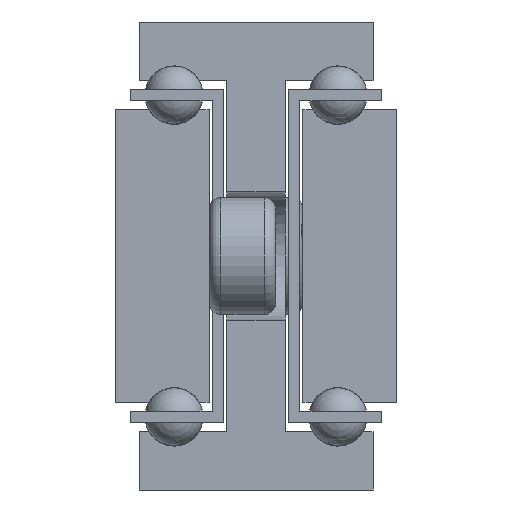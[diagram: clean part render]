
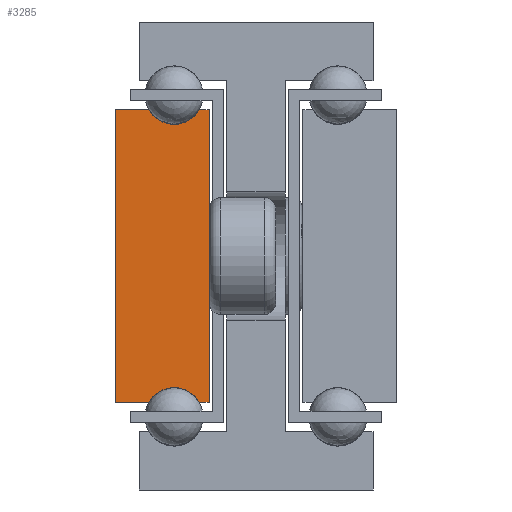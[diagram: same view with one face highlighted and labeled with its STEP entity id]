
A CAD part, front view. The second image highlights one B-rep face of the part: STEP entity #3285.
In plain terms, the highlighted planar face has unit normal (0, -1, 0).
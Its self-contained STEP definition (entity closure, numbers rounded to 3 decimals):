
#220=LINE('',#34554,#430);
#223=LINE('',#34560,#433);
#227=LINE('',#34572,#437);
#230=LINE('',#34578,#440);
#233=LINE('',#34584,#443);
#237=LINE('',#34594,#447);
#430=VECTOR('',#3816,1.);
#433=VECTOR('',#3821,1.);
#437=VECTOR('',#3833,1.);
#440=VECTOR('',#3838,1.);
#443=VECTOR('',#3843,1.);
#447=VECTOR('',#3855,1.);
#645=PLANE('',#3516);
#733=CIRCLE('',#3507,2.5);
#735=CIRCLE('',#3513,2.5);
#925=FACE_OUTER_BOUND('',#1135,.T.);
#1135=EDGE_LOOP('',(#2474,#2475,#2476,#2477,#2478,#2479,#2480,#2481));
#1554=VERTEX_POINT('',#34551);
#1555=VERTEX_POINT('',#34553);
#1557=VERTEX_POINT('',#34559);
#1559=VERTEX_POINT('',#34565);
#1561=VERTEX_POINT('',#34571);
#1563=VERTEX_POINT('',#34577);
#1565=VERTEX_POINT('',#34583);
#1567=VERTEX_POINT('',#34589);
#1924=EDGE_CURVE('',#1555,#1554,#220,.T.);
#1927=EDGE_CURVE('',#1557,#1555,#223,.T.);
#1930=EDGE_CURVE('',#1559,#1557,#733,.T.);
#1933=EDGE_CURVE('',#1561,#1559,#227,.T.);
#1936=EDGE_CURVE('',#1563,#1561,#230,.T.);
#1939=EDGE_CURVE('',#1565,#1563,#233,.T.);
#1942=EDGE_CURVE('',#1567,#1565,#735,.T.);
#1945=EDGE_CURVE('',#1554,#1567,#237,.T.);
#2474=ORIENTED_EDGE('',*,*,#1945,.T.);
#2475=ORIENTED_EDGE('',*,*,#1942,.T.);
#2476=ORIENTED_EDGE('',*,*,#1939,.T.);
#2477=ORIENTED_EDGE('',*,*,#1936,.T.);
#2478=ORIENTED_EDGE('',*,*,#1933,.T.);
#2479=ORIENTED_EDGE('',*,*,#1930,.T.);
#2480=ORIENTED_EDGE('',*,*,#1927,.T.);
#2481=ORIENTED_EDGE('',*,*,#1924,.T.);
#3285=ADVANCED_FACE('',(#925),#645,.T.);
#3507=AXIS2_PLACEMENT_3D('',#34566,#3827,#3828);
#3513=AXIS2_PLACEMENT_3D('',#34590,#3849,#3850);
#3516=AXIS2_PLACEMENT_3D('',#34596,#3858,#3859);
#3816=DIRECTION('',(0.,0.,-1.));
#3821=DIRECTION('',(-1.,0.,0.));
#3827=DIRECTION('center_axis',(0.,1.,0.));
#3828=DIRECTION('ref_axis',(-0.866,0.,-0.5));
#3833=DIRECTION('',(-1.,0.,0.));
#3838=DIRECTION('',(0.,0.,1.));
#3843=DIRECTION('',(1.,0.,0.));
#3849=DIRECTION('center_axis',(0.,1.,0.));
#3850=DIRECTION('ref_axis',(0.866,0.,0.5));
#3855=DIRECTION('',(1.,0.,0.));
#3858=DIRECTION('center_axis',(0.,-1.,0.));
#3859=DIRECTION('ref_axis',(1.,0.,0.));
#34551=CARTESIAN_POINT('',(2787.497,980.64,162.5));
#34553=CARTESIAN_POINT('',(2787.497,980.64,187.5));
#34554=CARTESIAN_POINT('',(2787.497,980.64,162.5));
#34559=CARTESIAN_POINT('',(2790.332,980.64,187.5));
#34560=CARTESIAN_POINT('',(2787.497,980.64,187.5));
#34565=CARTESIAN_POINT('',(2794.662,980.64,187.5));
#34566=CARTESIAN_POINT('Origin',(2792.497,980.64,188.75));
#34571=CARTESIAN_POINT('',(2795.497,980.64,187.5));
#34572=CARTESIAN_POINT('',(2794.662,980.64,187.5));
#34577=CARTESIAN_POINT('',(2795.497,980.64,162.5));
#34578=CARTESIAN_POINT('',(2795.497,980.64,187.5));
#34583=CARTESIAN_POINT('',(2794.662,980.64,162.5));
#34584=CARTESIAN_POINT('',(2795.497,980.64,162.5));
#34589=CARTESIAN_POINT('',(2790.332,980.64,162.5));
#34590=CARTESIAN_POINT('Origin',(2792.497,980.64,161.25));
#34594=CARTESIAN_POINT('',(2790.332,980.64,162.5));
#34596=CARTESIAN_POINT('Origin',(2791.485,980.64,175.));
